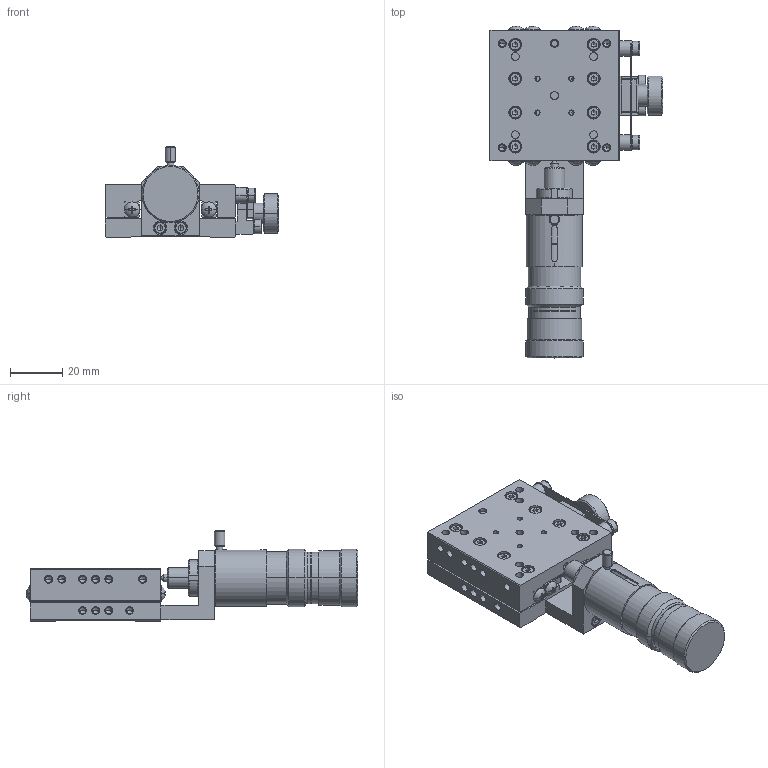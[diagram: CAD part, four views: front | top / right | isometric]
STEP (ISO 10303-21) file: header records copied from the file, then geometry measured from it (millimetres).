
FILE_DESCRIPTION (( 'STEP AP214' ), '1' );
FILE_NAME ('XM05A-C3-CL.STEP', '2007-08-07T00:11:54', ( ' ' ), ( ' ' ), 'SwSTEP 2.0', 'SolidWorks 2006052', '' );
FILE_SCHEMA (( 'AUTOMOTIVE_DESIGN' ));
Products named in the file (5): 001010-1011(3D)-Part-2-2; 001010-1023(3D)-6; 001010-1011(3D)-Part-1-2; 001010-1011(3D)-2; XM05A-C3-CL
Assembly tree (4 placements, depth 3):
  XM05A-C3-CL
    001010-1011(3D)-2
      001010-1011(3D)-Part-2-2
      001010-1011(3D)-Part-1-2
    001010-1023(3D)-6
Bounding box: 66.5 x 127.18 x 34.5 mm (x, y, z)
Volume: 68112.6 mm3; surface area: 36714.2 mm2
Topology: 3 solids, 45 shells, 1636 faces, 3765 edges, 2237 vertices
Faces by surface type: plane 741, cylinder 500, cone 290, torus 88, sphere 17
Entity records: 46158 total; most frequent: CARTESIAN_POINT 8446, DIRECTION 8445, ORIENTED_EDGE 7326, EDGE_CURVE 3663, AXIS2_PLACEMENT_3D 3272, VERTEX_POINT 2237, VECTOR 1901, LINE 1901
